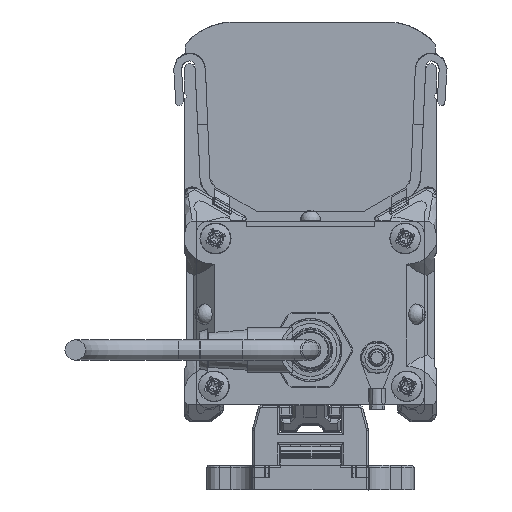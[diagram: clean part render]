
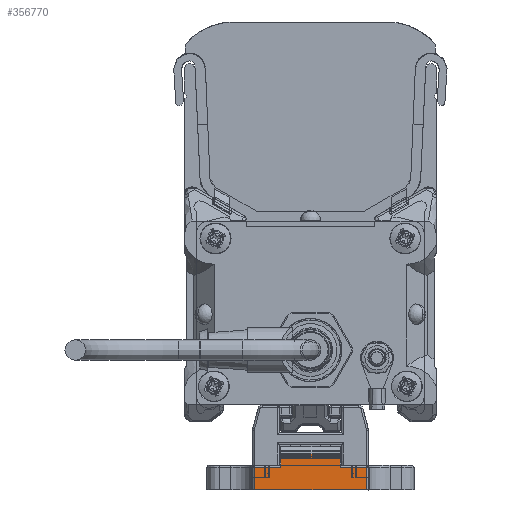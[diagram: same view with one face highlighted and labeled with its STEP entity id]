
A CAD part, left-side view. The second image highlights one B-rep face of the part: STEP entity #356770.
In plain terms, the highlighted planar face has unit normal (-1, 0, 0) as drawn and (1, 0, 0) by its records, which use the part's own axes.
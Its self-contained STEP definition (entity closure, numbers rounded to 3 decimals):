
#131843=ORIENTED_EDGE('',*,*,#186304,.F.);
#131844=ORIENTED_EDGE('',*,*,#186305,.T.);
#131845=ORIENTED_EDGE('',*,*,#186306,.F.);
#131846=ORIENTED_EDGE('',*,*,#186302,.T.);
#131847=ORIENTED_EDGE('',*,*,#186276,.F.);
#131848=ORIENTED_EDGE('',*,*,#186307,.T.);
#131849=ORIENTED_EDGE('',*,*,#186308,.F.);
#131850=ORIENTED_EDGE('',*,*,#186309,.T.);
#159911=VECTOR('',#215801,1.);
#159929=VECTOR('',#215835,1.);
#159930=VECTOR('',#215840,1.);
#159931=VECTOR('',#215841,1.);
#159932=VECTOR('',#215842,1.);
#159933=VECTOR('',#215843,1.);
#159934=VECTOR('',#215844,1.);
#159935=VECTOR('',#215845,1.);
#168228=LINE('',#247245,#159911);
#168246=LINE('',#247336,#159929);
#168247=LINE('',#247341,#159930);
#168248=LINE('',#247343,#159931);
#168249=LINE('',#247344,#159932);
#168250=LINE('',#247346,#159933);
#168251=LINE('',#247348,#159934);
#168252=LINE('',#247349,#159935);
#176674=VERTEX_POINT('',#247242);
#176675=VERTEX_POINT('',#247244);
#176698=VERTEX_POINT('',#247335);
#176699=VERTEX_POINT('',#247339);
#176700=VERTEX_POINT('',#247340);
#176701=VERTEX_POINT('',#247342);
#176702=VERTEX_POINT('',#247345);
#176703=VERTEX_POINT('',#247347);
#186276=EDGE_CURVE('',#176674,#176675,#168228,.T.);
#186302=EDGE_CURVE('',#176698,#176675,#168246,.T.);
#186304=EDGE_CURVE('',#176699,#176700,#168247,.T.);
#186305=EDGE_CURVE('',#176699,#176701,#168248,.T.);
#186306=EDGE_CURVE('',#176698,#176701,#168249,.T.);
#186307=EDGE_CURVE('',#176674,#176702,#168250,.T.);
#186308=EDGE_CURVE('',#176703,#176702,#168251,.T.);
#186309=EDGE_CURVE('',#176703,#176700,#168252,.T.);
#200563=EDGE_LOOP('',(#131843,#131844,#131845,#131846,#131847,#131848,#131849,
#131850));
#207347=FACE_BOUND('',#200563,.T.);
#215801=DIRECTION('',(0.,-26.996,0.));
#215835=DIRECTION('',(0.,0.,-5.5));
#215838=DIRECTION('',(1.,0.,0.));
#215839=DIRECTION('',(0.,-1.,0.));
#215840=DIRECTION('',(0.,14.4,0.));
#215841=DIRECTION('',(0.,0.,-3.1));
#215842=DIRECTION('',(0.,6.298,0.));
#215843=DIRECTION('',(0.,0.,5.5));
#215844=DIRECTION('',(0.,6.298,0.));
#215845=DIRECTION('',(0.,0.,3.1));
#247242=CARTESIAN_POINT('',(96.175,75.88,-3.));
#247244=CARTESIAN_POINT('',(96.175,48.884,-3.));
#247245=CARTESIAN_POINT('',(96.175,75.88,-3.));
#247335=CARTESIAN_POINT('',(96.175,48.884,2.5));
#247336=CARTESIAN_POINT('',(96.175,48.884,2.5));
#247338=CARTESIAN_POINT('',(96.175,55.182,5.6));
#247339=CARTESIAN_POINT('',(96.175,55.182,5.6));
#247340=CARTESIAN_POINT('',(96.175,69.582,5.6));
#247341=CARTESIAN_POINT('',(96.175,55.182,5.6));
#247342=CARTESIAN_POINT('',(96.175,55.182,2.5));
#247343=CARTESIAN_POINT('',(96.175,55.182,5.6));
#247344=CARTESIAN_POINT('',(96.175,48.884,2.5));
#247345=CARTESIAN_POINT('',(96.175,75.88,2.5));
#247346=CARTESIAN_POINT('',(96.175,75.88,-3.));
#247347=CARTESIAN_POINT('',(96.175,69.582,2.5));
#247348=CARTESIAN_POINT('',(96.175,69.582,2.5));
#247349=CARTESIAN_POINT('',(96.175,69.582,2.5));
#343651=AXIS2_PLACEMENT_3D('',#247338,#215838,#215839);
#354006=PLANE('',#343651);
#356770=ADVANCED_FACE('',(#207347),#354006,.T.);
